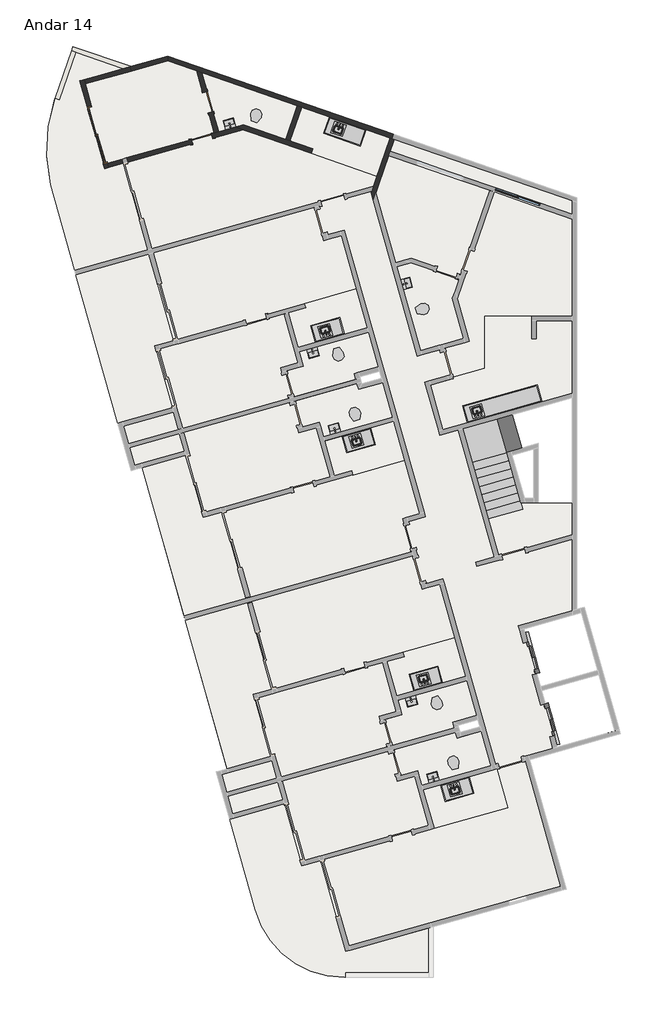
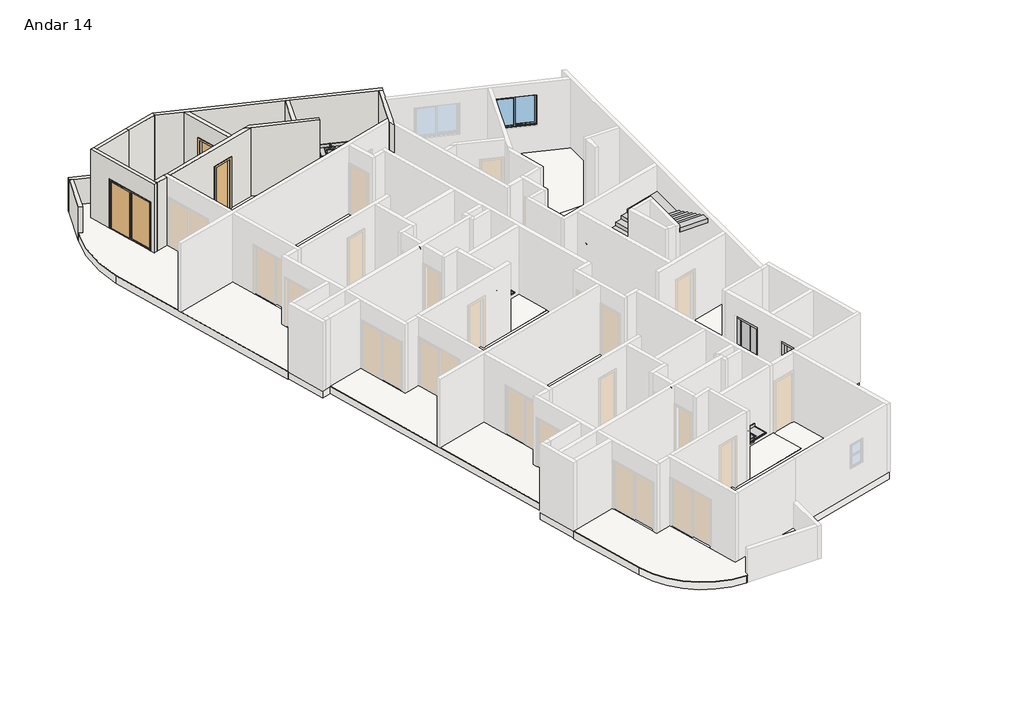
# One storey, part 3 of 3: 18 flow terminals, 18 slabs, 12 walls, 8 proxies, 3 doors, 1 stair flight, 1 window.
"""IFC4 building model written with IfcOpenShell, lengths in millimetres."""

from ifc_helpers import new_model, si_unit, point, frame, frame_2d, origin, place, context, project, spatial, polyline, circle_curve, trimmed, segment, composite_curve, outline, extrude, faceted_brep, transform, mapped, element, save
from components import specialty_equipment_6c35da8b, specialty_equipment_77dfa124, rf_bancada_cozinha_rf_bancada_cozinha_340fef9f, rf_bancada_cozinha_rf_bancada_cozinha_cfb88ba1, rf_bancada_cozinha_rf_bancada_cozinha_2f873929, rf_bancada_cozinha_rf_bancada_cozinha_798ceddf, p3_70cm_ef4d15e3, p3_70cm_0a698c7c, p4_correr_200cm_eaaa0877, flow_terminal_cab7bae2, flow_terminal_3fb7dc42, flow_terminal_e42b9071, flow_terminal_c6e042c4, ap_01_creme_cr37_13e02e03, ap_01_creme_cr37_5ce6e54d, jx_160cm_e9e36a0c

model = new_model("IFC4")

# Units and contexts
model_context = context("Model", 3, world=origin())
ifc_project = project(units=[si_unit("LENGTHUNIT", "METRE", prefix="MILLI")], contexts=[model_context])

# Site, building, storey
site = spatial("IfcSite", under=ifc_project)
building = spatial("IfcBuilding", under=site)
storey = spatial("IfcBuildingStorey", under=building, Name="Andar 14", Elevation=91350.0)

# Proxies
placement = place(None, origin())
specialty_equipment_shape = specialty_equipment_6c35da8b(model_context)
element("IfcBuildingElementProxy", 1, Name="Porta do elevador : Porta do elevador", ObjectType="Porta do elevador : Porta do elevador", at=placement, inside=storey, context=model_context, shape_type="MappedRepresentation", body=[
    mapped(specialty_equipment_shape, transform((-76594.4337486, 15747.4543727, 91350.0), x_axis=(0.27176796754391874, -0.9623628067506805, 0.0), y_axis=(0.9623628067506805, 0.27176796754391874, 0.0), z_axis=(0.0, 0.0, 1.0))),
])
specialty_equipment_2_shape = specialty_equipment_77dfa124(model_context)
element("IfcBuildingElementProxy", 2, Name="Porta do elevador : Porta do elevador", ObjectType="Porta do elevador : Porta do elevador", at=placement, inside=storey, context=model_context, shape_type="MappedRepresentation", body=[
    mapped(specialty_equipment_2_shape, transform((-75942.1906265, 13437.7836365, 91350.0), x_axis=(-0.27176796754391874, 0.9623628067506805, 0.0), y_axis=(-0.9623628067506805, -0.27176796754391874, 0.0), z_axis=(0.0, 0.0, 1.0))),
])
rf_bancada_cozinha_rf_bancada_cozinha_shape = rf_bancada_cozinha_rf_bancada_cozinha_340fef9f(model_context)
element("IfcBuildingElementProxy", 3, Name="RF_Bancada Cozinha : RF_Bancada Cozinha", ObjectType="RF_Bancada Cozinha : RF_Bancada Cozinha", at=placement, inside=storey, context=model_context, shape_type="MappedRepresentation", body=[
    mapped(rf_bancada_cozinha_rf_bancada_cozinha_shape, transform((-82760.548019, 26451.5820971, 92100.0), x_axis=(-0.9623628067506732, -0.27176796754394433, 0.0), y_axis=(0.27176796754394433, -0.9623628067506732, 0.0), z_axis=(0.0, 0.0, 1.0))),
])
element("IfcBuildingElementProxy", 4, Name="RF_Bancada Cozinha : RF_Bancada Cozinha", ObjectType="RF_Bancada Cozinha : RF_Bancada Cozinha", at=placement, inside=storey, context=model_context, shape_type="MappedRepresentation", body=[
    mapped(rf_bancada_cozinha_rf_bancada_cozinha_shape, transform((-79472.1556117, 14806.9921354, 92100.0), x_axis=(-0.9623628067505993, -0.2717679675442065, 0.0), y_axis=(0.2717679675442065, -0.9623628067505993, 0.0), z_axis=(0.0, 0.0, 1.0))),
])
rf_bancada_cozinha_rf_bancada_cozinha_2_shape = rf_bancada_cozinha_rf_bancada_cozinha_cfb88ba1(model_context)
element("IfcBuildingElementProxy", 5, Name="RF_Bancada Cozinha : RF_Bancada Cozinha", ObjectType="RF_Bancada Cozinha : RF_Bancada Cozinha", at=placement, inside=storey, context=model_context, shape_type="MappedRepresentation", body=[
    mapped(rf_bancada_cozinha_rf_bancada_cozinha_2_shape, transform((-81877.3021245, 23323.9029751, 92100.0), x_axis=(-0.9623628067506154, -0.27176796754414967, 0.0), y_axis=(0.27176796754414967, -0.9623628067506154, 0.0), z_axis=(0.0, 0.0, 1.0))),
])
element("IfcBuildingElementProxy", 6, Name="RF_Bancada Cozinha : RF_Bancada Cozinha", ObjectType="RF_Bancada Cozinha : RF_Bancada Cozinha", at=placement, inside=storey, context=model_context, shape_type="MappedRepresentation", body=[
    mapped(rf_bancada_cozinha_rf_bancada_cozinha_2_shape, transform((-78588.9097172, 11679.3130134, 92100.0), x_axis=(-0.9623628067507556, -0.27176796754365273, 0.0), y_axis=(0.27176796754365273, -0.9623628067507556, 0.0), z_axis=(0.0, 0.0, 1.0))),
])
rf_bancada_cozinha_rf_bancada_cozinha_3_shape = rf_bancada_cozinha_rf_bancada_cozinha_2f873929(model_context)
element("IfcBuildingElementProxy", 7, Name="RF_Bancada Cozinha : RF_Bancada Cozinha", ObjectType="RF_Bancada Cozinha : RF_Bancada Cozinha", at=placement, inside=storey, context=model_context, shape_type="MappedRepresentation", body=[
    mapped(rf_bancada_cozinha_rf_bancada_cozinha_3_shape, transform((-82030.0326121, 33293.9830661, 92100.0), x_axis=(-0.9449109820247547, 0.32732741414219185, 0.0), y_axis=(-0.32732741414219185, -0.9449109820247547, 0.0), z_axis=(0.0, 0.0, 1.0))),
])
rf_bancada_cozinha_rf_bancada_cozinha_4_shape = rf_bancada_cozinha_rf_bancada_cozinha_798ceddf(model_context)
element("IfcBuildingElementProxy", 8, Name="RF_Bancada Cozinha : RF_Bancada Cozinha", ObjectType="RF_Bancada Cozinha : RF_Bancada Cozinha", at=placement, inside=storey, context=model_context, shape_type="MappedRepresentation", body=[
    mapped(rf_bancada_cozinha_rf_bancada_cozinha_4_shape, transform((-76157.6622331, 24197.9763092, 92100.0), x_axis=(-0.9623628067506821, -0.27176796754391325, 0.0), y_axis=(0.27176796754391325, -0.9623628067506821, 0.0), z_axis=(0.0, 0.0, 1.0))),
])

# Doors
p3_70cm_shape = p3_70cm_ef4d15e3(model_context)
element("IfcDoor", 9, ObjectType="M_Folha única1 : P3 - 70CM", at=placement, inside=storey, context=model_context, shape_type="MappedRepresentation", body=[
    mapped(p3_70cm_shape, transform((-87513.806232, 32980.5300491, 91350.0), x_axis=(0.9623628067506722, 0.2717679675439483, 0.0), y_axis=(-0.2717679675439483, 0.9623628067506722, 0.0), z_axis=(0.0, 0.0, 1.0))),
])
p3_70cm_2_shape = p3_70cm_0a698c7c(model_context)
element("IfcDoor", 10, ObjectType="M_Folha única1 : P3 - 70CM", at=placement, inside=storey, context=model_context, shape_type="MappedRepresentation", body=[
    mapped(p3_70cm_2_shape, transform((-87314.304722, 34205.8663896, 91350.0), x_axis=(-0.2717679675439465, 0.9623628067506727, 0.0), y_axis=(-0.9623628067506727, -0.2717679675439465, 0.0), z_axis=(0.0, 0.0, 1.0))),
])
p4_correr_200cm_shape = p4_correr_200cm_eaaa0877(model_context)
element("IfcDoor", 11, ObjectType="Porta de correr dupla envidraçada sem revestimento : P4 - CORRER - 200CM", at=placement, inside=storey, context=model_context, shape_type="MappedRepresentation", body=[
    mapped(p4_correr_200cm_shape, transform((-91005.8131296, 33111.4415743, 91350.0), x_axis=(0.2717679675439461, -0.9623628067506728, 0.0), y_axis=(0.9623628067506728, 0.2717679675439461, 0.0), z_axis=(0.0, 0.0, 1.0))),
])

# Flow terminals
flow_terminal_shape = flow_terminal_cab7bae2(model_context)
element("IfcFlowTerminal", 12, ObjectType="RF_Pias : Pia da Bancada", at=placement, inside=storey, context=model_context, shape_type="MappedRepresentation", body=[
    mapped(flow_terminal_shape, transform((-83380.5102831, 26570.4992214, 91202.9), x_axis=(-0.9623628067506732, -0.27176796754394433, 0.0), y_axis=(0.27176796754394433, -0.9623628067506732, 0.0), z_axis=(0.0, 0.0, 1.0))),
])
element("IfcFlowTerminal", 13, ObjectType="RF_Pias : Pia da Bancada", at=placement, inside=storey, context=model_context, shape_type="MappedRepresentation", body=[
    mapped(flow_terminal_shape, transform((-80092.1178758, 14925.9092597, 91202.9), x_axis=(-0.9623628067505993, -0.2717679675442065, 0.0), y_axis=(0.2717679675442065, -0.9623628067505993, 0.0), z_axis=(0.0, 0.0, 1.0))),
])
element("IfcFlowTerminal", 14, ObjectType="RF_Pias : Pia da Bancada", at=placement, inside=storey, context=model_context, shape_type="MappedRepresentation", body=[
    mapped(flow_terminal_shape, transform((-78306.8185143, 23885.0542694, 91202.9), x_axis=(-0.9623628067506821, -0.27176796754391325, 0.0), y_axis=(0.27176796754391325, -0.9623628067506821, 0.0), z_axis=(0.0, 0.0, 1.0))),
])
flow_terminal_2_shape = flow_terminal_3fb7dc42(model_context)
element("IfcFlowTerminal", 15, ObjectType="Deca_Cuba de Apoio Retangular_L7300 : L.7300.17_Branco Gelo GE17", at=placement, inside=storey, context=model_context, shape_type="MappedRepresentation", body=[
    mapped(flow_terminal_2_shape, transform((-83090.0822283, 23308.7374016, 92100.0), x_axis=(-0.9623628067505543, -0.2717679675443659, 0.0), y_axis=(0.2717679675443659, -0.9623628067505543, 0.0), z_axis=(0.0, 0.0, 1.0))),
])
element("IfcFlowTerminal", 16, ObjectType="Deca_Cuba de Apoio Retangular_L7300 : L.7300.17_Branco Gelo GE17", at=placement, inside=storey, context=model_context, shape_type="MappedRepresentation", body=[
    mapped(flow_terminal_2_shape, transform((-79801.689821, 11664.1474399, 92100.0), x_axis=(-0.9623628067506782, -0.2717679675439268, 0.0), y_axis=(0.2717679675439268, -0.9623628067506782, 0.0), z_axis=(0.0, 0.0, 1.0))),
])
element("IfcFlowTerminal", 17, ObjectType="Deca_Cuba de Apoio Retangular_L7300 : L.7300.17_Branco Gelo GE17", at=placement, inside=storey, context=model_context, shape_type="MappedRepresentation", body=[
    mapped(flow_terminal_2_shape, transform((-80677.0991462, 28154.8020678, 92100.0), x_axis=(-0.2717679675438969, 0.9623628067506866, 0.0), y_axis=(-0.9623628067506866, -0.2717679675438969, 0.0), z_axis=(0.0, 0.0, 1.0))),
])
element("IfcFlowTerminal", 18, ObjectType="Deca_Cuba de Apoio Retangular_L7300 : L.7300.17_Branco Gelo GE17", at=placement, inside=storey, context=model_context, shape_type="MappedRepresentation", body=[
    mapped(flow_terminal_2_shape, transform((-86597.4204814, 33488.7004496, 92100.0), x_axis=(-0.9623628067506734, -0.27176796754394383, 0.0), y_axis=(0.27176796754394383, -0.9623628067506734, 0.0), z_axis=(0.0, 0.0, 1.0))),
])
flow_terminal_3_shape = flow_terminal_e42b9071(model_context)
element("IfcFlowTerminal", 19, ObjectType="Deca_Cuba de Apoio Retangular_L7300 : L.7300.17_Branco Gelo GE17", at=placement, inside=storey, context=model_context, shape_type="MappedRepresentation", body=[
    mapped(flow_terminal_3_shape, transform((-83802.1143033, 25830.1279553, 92100.0), x_axis=(-0.9623628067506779, -0.2717679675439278, 0.0), y_axis=(0.2717679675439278, -0.9623628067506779, 0.0), z_axis=(0.0, 0.0, 1.0))),
])
element("IfcFlowTerminal", 20, ObjectType="Deca_Cuba de Apoio Retangular_L7300 : L.7300.17_Branco Gelo GE17", at=placement, inside=storey, context=model_context, shape_type="MappedRepresentation", body=[
    mapped(flow_terminal_3_shape, transform((-80513.721896, 14185.5379936, 92100.0), x_axis=(-0.962362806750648, -0.27176796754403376, 0.0), y_axis=(0.27176796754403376, -0.962362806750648, 0.0), z_axis=(0.0, 0.0, 1.0))),
])
flow_terminal_4_shape = flow_terminal_c6e042c4(model_context)
element("IfcFlowTerminal", 21, ObjectType="RF_Pias : Pia da Bancada", at=placement, inside=storey, context=model_context, shape_type="MappedRepresentation", body=[
    mapped(flow_terminal_4_shape, transform((-82343.483233, 22898.2626745, 91202.9), x_axis=(-0.9623628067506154, -0.27176796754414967, 0.0), y_axis=(0.27176796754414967, -0.9623628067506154, 0.0), z_axis=(0.0, 0.0, 1.0))),
])
element("IfcFlowTerminal", 22, ObjectType="RF_Pias : Pia da Bancada", at=placement, inside=storey, context=model_context, shape_type="MappedRepresentation", body=[
    mapped(flow_terminal_4_shape, transform((-79055.0908257, 11253.6727129, 91202.9), x_axis=(-0.9623628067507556, -0.27176796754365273, 0.0), y_axis=(0.27176796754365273, -0.9623628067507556, 0.0), z_axis=(0.0, 0.0, 1.0))),
])
element("IfcFlowTerminal", 23, ObjectType="RF_Pias : Pia da Bancada", at=placement, inside=storey, context=model_context, shape_type="MappedRepresentation", body=[
    mapped(flow_terminal_4_shape, transform((-82939.3392028, 33309.5545572, 91202.9), x_axis=(-0.9449109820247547, 0.32732741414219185, 0.0), y_axis=(-0.32732741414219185, -0.9449109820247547, 0.0), z_axis=(0.0, 0.0, 1.0))),
])
ap_01_creme_cr37_shape = ap_01_creme_cr37_13e02e03(model_context)
element("IfcFlowTerminal", 24, ObjectType="Deca_Shared_Assento_P.900 : AP.01_Creme CR37", at=placement, inside=storey, context=model_context, shape_type="MappedRepresentation", body=[
    mapped(ap_01_creme_cr37_shape, transform((-83017.5301151, 25983.4740486, 91737.8723674), x_axis=(0.9623628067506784, 0.2717679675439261, 0.0), y_axis=(0.0, 0.0, 1.0), z_axis=(0.2717679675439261, -0.9623628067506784, 0.0))),
])
element("IfcFlowTerminal", 25, ObjectType="Deca_Shared_Assento_P.900 : AP.01_Creme CR37", at=placement, inside=storey, context=model_context, shape_type="MappedRepresentation", body=[
    mapped(ap_01_creme_cr37_shape, transform((-79729.1377078, 14338.8840869, 91737.8723674), x_axis=(0.962362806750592, 0.2717679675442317, 0.0), y_axis=(0.0, 0.0, 1.0), z_axis=(0.2717679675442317, -0.962362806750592, 0.0))),
])
element("IfcFlowTerminal", 26, ObjectType="Deca_Shared_Assento_P.900 : AP.01_Creme CR37", at=placement, inside=storey, context=model_context, shape_type="MappedRepresentation", body=[
    mapped(ap_01_creme_cr37_shape, transform((-80349.5164684, 27236.3600819, 91737.8723674), x_axis=(-0.271767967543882, 0.9623628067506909, 0.0), y_axis=(0.0, 0.0, 1.0), z_axis=(0.9623628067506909, 0.271767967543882, 0.0))),
])
element("IfcFlowTerminal", 27, ObjectType="Deca_Shared_Assento_P.900 : AP.01_Creme CR37", at=placement, inside=storey, context=model_context, shape_type="MappedRepresentation", body=[
    mapped(ap_01_creme_cr37_shape, transform((-85777.8760768, 33566.4131555, 91737.8723674), x_axis=(-0.9449109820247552, 0.3273274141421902, 0.0), y_axis=(0.0, 0.0, 1.0000000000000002), z_axis=(0.3273274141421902, 0.9449109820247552, 0.0))),
])
ap_01_creme_cr37_2_shape = ap_01_creme_cr37_5ce6e54d(model_context)
element("IfcFlowTerminal", 28, ObjectType="Deca_Shared_Assento_P.900 : AP.01_Creme CR37", at=placement, inside=storey, context=model_context, shape_type="MappedRepresentation", body=[
    mapped(ap_01_creme_cr37_2_shape, transform((-82341.1813229, 23588.4422577, 91737.8723674), x_axis=(0.9623628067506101, 0.27176796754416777, 0.0), y_axis=(0.0, 0.0, -1.0), z_axis=(-0.27176796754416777, 0.9623628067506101, 0.0))),
])
element("IfcFlowTerminal", 29, ObjectType="Deca_Shared_Assento_P.900 : AP.01_Creme CR37", at=placement, inside=storey, context=model_context, shape_type="MappedRepresentation", body=[
    mapped(ap_01_creme_cr37_2_shape, transform((-79052.7889156, 11943.852296, 91737.8723674), x_axis=(0.9623628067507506, 0.2717679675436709, 0.0), y_axis=(0.0, 0.0, -1.0000000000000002), z_axis=(-0.2717679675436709, 0.9623628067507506, 0.0))),
])

# Slabs
element("IfcSlab", 30, ObjectType="TZ_Piso de Áreas Molhadas", at=placement, inside=storey, context=model_context, shape_type="SweptSolid", body=[
    extrude(outline(composite_curve([segment(polyline([(-90765.4571774, 31984.341749), (-90143.7425806, 32159.9118263), (-89328.438678, 29272.823406), (-91766.0080564, 28584.4621444), (-92573.2320087, 31442.9384962)]), True, "CONTINUOUS"), segment(trimmed(circle_curve(frame_2d((-87414.5556743, 32622.5665107)), 5291.829908), [point((-92573.2320087, 31442.9384962))], [point((-92422.0860726, 34333.7366032))], False, "CARTESIAN"), True, "CONTINUOUS"), segment(polyline([(-92422.0860726, 34333.7366032), (-92280.2794148, 34284.6132387), (-91729.7010481, 35873.9929322), (-90151.0501028, 35327.1311202), (-91594.3494784, 34919.5483093), (-90765.4571774, 31984.341749)]), True, "CONTINUOUS")], self_intersect=False)), frame((0.0, 0.0, 91350.0), z_axis=(0.0, 0.0, 1.0), x_axis=(1.0, 0.0, 0.0)), (0.0, 0.0, 1.0), 20.0),
])
element("IfcSlab", 31, ObjectType="TZ_Piso de Áreas Molhadas", at=placement, inside=storey, context=model_context, shape_type="SweptSolid", body=[
    extrude(outline(polyline([(-88472.3695802, 26241.3805647), (-89094.084177, 26065.8104874), (-88509.7830468, 23996.7304529), (-90325.6378284, 23483.9392686), (-91725.2428613, 28440.1077234), (-89287.6734828, 29128.468985), (-88472.3695802, 26241.3805647)])), frame((0.0, 0.0, 91350.0), z_axis=(0.0, 0.0, 1.0), x_axis=(1.0, 0.0, 0.0)), (0.0, 0.0, 1.0), 20.0),
])
element("IfcSlab", 32, ObjectType="TZ_Piso de Áreas Molhadas", at=placement, inside=storey, context=model_context, shape_type="SweptSolid", body=[
    extrude(outline(polyline([(-86855.3501733, 20515.3218645), (-86040.0462707, 17628.2334443), (-88109.1263052, 17043.9323141), (-89508.731338, 22000.1007688), (-88061.3659003, 22408.8318218), (-87477.0647701, 20339.7517872), (-86855.3501733, 20515.3218645)])), frame((0.0, 0.0, 91350.0), z_axis=(0.0, 0.0, 1.0), x_axis=(1.0, 0.0, 0.0)), (0.0, 0.0, 1.0), 20.0),
])
element("IfcSlab", 33, ObjectType="TZ_Piso de Áreas Molhadas", at=placement, inside=storey, context=model_context, shape_type="SweptSolid", body=[
    extrude(outline(polyline([(-78926.5637691, 28284.9851582), (-79146.9727346, 27648.7205404), (-78771.1333302, 26317.8283554), (-80214.6775403, 25910.176404), (-81004.3851492, 28706.6252933), (-80530.2499593, 28840.5194505), (-78926.5637691, 28284.9851582)])), frame((0.0, 0.0, 91350.0), z_axis=(0.0, 0.0, 1.0), x_axis=(1.0, 0.0, 0.0)), (0.0, 0.0, 1.0), 20.0),
])
element("IfcSlab", 34, ObjectType="TZ_Piso de Áreas Molhadas", at=placement, inside=storey, context=model_context, shape_type="SweptSolid", body=[
    extrude(outline(polyline([(-78070.9150345, 27060.8243598), (-76493.6479314, 27060.8243598), (-76493.6479314, 26310.8243598), (-76343.6479314, 26310.8243598), (-76343.6479314, 26910.8243598), (-75147.8282189, 26910.8243598), (-75147.8282189, 24483.4871675), (-79467.3156296, 23263.6786855), (-79888.5559793, 24755.3410359), (-79127.7601479, 24970.1871785), (-79141.3485461, 25018.3053183), (-78070.9150345, 25320.5920836), (-78070.9150345, 27060.8243598)])), frame((0.0, 0.0, 91350.0), z_axis=(0.0, 0.0, 1.0), x_axis=(1.0, 0.0, 0.0)), (0.0, 0.0, 1.0), 20.0),
])
element("IfcSlab", 35, ObjectType="TZ_Piso de Áreas Molhadas", at=placement, inside=storey, context=model_context, shape_type="SweptSolid", body=[
    extrude(outline(polyline([(-84719.4810559, 32955.6762822), (-86137.8721095, 33447.0223292), (-86956.7711455, 33215.7680402), (-87515.4733556, 35194.1992432), (-84326.6881589, 34089.5694606), (-84719.4810559, 32955.6762822)])), frame((0.0, 0.0, 91350.0), z_axis=(0.0, 0.0, 1.0), x_axis=(1.0, 0.0, 0.0)), (0.0, 0.0, 1.0), 20.0),
])
element("IfcSlab", 36, ObjectType="TZ_Piso de Áreas Molhadas", at=placement, inside=storey, context=model_context, shape_type="SweptSolid", body=[
    extrude(outline(polyline([(-84577.7444086, 32906.57717), (-84184.9515116, 34040.4703485), (-81226.8582774, 33015.7547641), (-81668.7502865, 31740.1249383), (-83870.9147351, 32502.9785914), (-83821.815623, 32644.7152387), (-84577.7444086, 32906.57717)])), frame((0.0, 0.0, 91350.0), z_axis=(0.0, 0.0, 1.0), x_axis=(1.0, 0.0, 0.0)), (0.0, 0.0, 1.0), 20.0),
])
element("IfcSlab", 37, ObjectType="TZ_Piso de Áreas Molhadas", at=placement, inside=storey, context=model_context, shape_type="SweptSolid", body=[
    extrude(outline(polyline([(-81949.8925784, 26524.6420501), (-81623.7710174, 25369.806682), (-82432.1557751, 25141.5215893), (-82377.8021816, 24949.0490279), (-84456.5058441, 24362.030218), (-84701.0970149, 25228.1567441), (-84123.6793309, 25391.2175246), (-84259.5633146, 25872.398928), (-81949.8925784, 26524.6420501)])), frame((0.0, 0.0, 91350.0), z_axis=(0.0, 0.0, 1.0), x_axis=(1.0, 0.0, 0.0)), (0.0, 0.0, 1.0), 20.0),
])
element("IfcSlab", 38, ObjectType="TZ_Piso de Áreas Molhadas", at=placement, inside=storey, context=model_context, shape_type="SweptSolid", body=[
    extrude(outline(polyline([(-84089.7975819, 27479.0039186), (-82357.5445298, 27968.1862602), (-81990.6577736, 26668.9964711), (-84300.3285098, 26016.753349), (-84626.4500708, 27171.5887171), (-84049.0323868, 27334.6494976), (-84089.7975819, 27479.0039186)])), frame((0.0, 0.0, 91350.0), z_axis=(0.0, 0.0, 1.0), x_axis=(1.0, 0.0, 0.0)), (0.0, 0.0, 1.0), 20.0),
])
element("IfcSlab", 39, ObjectType="TZ_Piso de Áreas Molhadas", at=placement, inside=storey, context=model_context, shape_type="SweptSolid", body=[
    extrude(outline(polyline([(-84171.1494782, 23351.5492709), (-84415.740649, 24217.675797), (-82337.0369864, 24804.6946069), (-82282.6833929, 24612.2220455), (-81474.2986352, 24840.5071383), (-81148.1770742, 23685.6717702), (-83457.8478104, 23033.4286481), (-83593.7317942, 23514.6100514), (-84171.1494782, 23351.5492709)])), frame((0.0, 0.0, 91350.0), z_axis=(0.0, 0.0, 1.0), x_axis=(1.0, 0.0, 0.0)), (0.0, 0.0, 1.0), 20.0),
])
element("IfcSlab", 40, ObjectType="TZ_Piso de Áreas Molhadas", at=placement, inside=storey, context=model_context, shape_type="SweptSolid", body=[
    extrude(outline(composite_curve([segment(polyline([(-79945.4990038, 5119.4122055), (-82713.5540687, 5119.4122055), (-82713.5540687, 4969.4122055), (-82751.3896972, 4969.4122055)]), True, "CONTINUOUS"), segment(trimmed(circle_curve(frame_2d((-82751.3896972, 8069.4122055)), 3100.0), [point((-82751.3896972, 4969.4122055))], [point((-85734.7143981, 7226.9315061))], False, "CARTESIAN"), True, "CONTINUOUS"), segment(polyline([(-85734.7143981, 7226.9315061), (-86588.8282733, 10251.4506708), (-84772.9735093, 10764.2419177), (-84188.6722855, 8695.1618243), (-83566.957766, 8870.7319029), (-82710.8885369, 5839.2889958), (-79945.4990038, 6620.2256515), (-79945.4990038, 5119.4122055)]), True, "CONTINUOUS")], self_intersect=False)), frame((0.0, 0.0, 91350.0), z_axis=(0.0, 0.0, 1.0), x_axis=(1.0, 0.0, 0.0)), (0.0, 0.0, 1.0), 20.0),
])
element("IfcSlab", 41, ObjectType="TZ_Piso de Áreas Molhadas", at=placement, inside=storey, context=model_context, shape_type="SweptSolid", body=[
    extrude(outline(polyline([(-78185.906228, 13195.9171766), (-77859.7846669, 12041.0818085), (-80169.4554031, 11388.8386864), (-80305.3393869, 11870.0200898), (-80882.7570709, 11706.9593092), (-81127.3482417, 12573.0858353), (-79048.6445791, 13160.1046452), (-78994.2909856, 12967.6320839), (-78185.906228, 13195.9171766)])), frame((0.0, 0.0, 91350.0), z_axis=(0.0, 0.0, 1.0), x_axis=(1.0, 0.0, 0.0)), (0.0, 0.0, 1.0), 20.0),
])
element("IfcSlab", 42, ObjectType="TZ_Piso de Áreas Molhadas", at=placement, inside=storey, context=model_context, shape_type="SweptSolid", body=[
    extrude(outline(polyline([(-77307.7782946, 10638.3027935), (-79761.8034518, 9945.2944763), (-80128.690208, 11244.4842654), (-77674.6650508, 11937.4925826), (-77307.7782946, 10638.3027935)])), frame((0.0, 0.0, 91350.0), z_axis=(0.0, 0.0, 1.0), x_axis=(1.0, 0.0, 0.0)), (0.0, 0.0, 1.0), 20.0),
])
element("IfcSlab", 43, ObjectType="TZ_Piso de Áreas Molhadas", at=placement, inside=storey, context=model_context, shape_type="SweptSolid", body=[
    extrude(outline(polyline([(-81107.9410005, 23543.1910314), (-80740.5251229, 22242.1275601), (-82472.778175, 21752.9452185), (-82513.5433702, 21897.2996395), (-83090.9610542, 21734.238859), (-83418.0192411, 22888.8089065), (-81107.9410005, 23543.1910314)])), frame((0.0, 0.0, 91350.0), z_axis=(0.0, 0.0, 1.0), x_axis=(1.0, 0.0, 0.0)), (0.0, 0.0, 1.0), 20.0),
])
element("IfcSlab", 44, ObjectType="TZ_Piso de Áreas Molhadas", at=placement, inside=storey, context=model_context, shape_type="SweptSolid", body=[
    extrude(outline(polyline([(-85183.9771729, 14596.790603), (-85805.6917697, 14421.2205257), (-85221.3906395, 12352.1404912), (-86668.7560772, 11943.4094383), (-88068.36111, 16899.5778931), (-85999.2810755, 17483.8790233), (-85183.9771729, 14596.790603)])), frame((0.0, 0.0, 91350.0), z_axis=(0.0, 0.0, 1.0), x_axis=(1.0, 0.0, 0.0)), (0.0, 0.0, 1.0), 20.0),
])
element("IfcSlab", 45, ObjectType="TZ_Piso de Áreas Molhadas", at=placement, inside=storey, context=model_context, shape_type="SweptSolid", body=[
    extrude(outline(polyline([(-81412.7046076, 13583.5667824), (-80835.2869236, 13746.6275629), (-80971.1709074, 14227.8089663), (-78661.5001712, 14880.0520884), (-78335.3786101, 13725.2167203), (-79143.7633678, 13496.9316276), (-79089.4097743, 13304.4590662), (-81168.1134368, 12717.4402563), (-81412.7046076, 13583.5667824)])), frame((0.0, 0.0, 91350.0), z_axis=(0.0, 0.0, 1.0), x_axis=(1.0, 0.0, 0.0)), (0.0, 0.0, 1.0), 20.0),
])
element("IfcSlab", 46, ObjectType="TZ_Piso de Áreas Molhadas", at=placement, inside=storey, context=model_context, shape_type="SweptSolid", body=[
    extrude(outline(polyline([(-78701.7362448, 15022.5328272), (-81012.8731576, 14371.8995868), (-81338.0576635, 15526.9987554), (-80760.6399795, 15690.059536), (-80801.4051746, 15834.413957), (-79069.1521225, 16323.5962985), (-78701.7362448, 15022.5328272)])), frame((0.0, 0.0, 91350.0), z_axis=(0.0, 0.0, 1.0), x_axis=(1.0, 0.0, 0.0)), (0.0, 0.0, 1.0), 20.0),
])
element("IfcSlab", 47, ObjectType="TZ_Laje 30cm", at=placement, inside=storey, context=model_context, shape_type="SweptSolid", body=[
    extrude(outline(composite_curve([segment(polyline([(-82713.5540687, 4969.4122055), (-82751.3896972, 4969.4122055)]), True, "CONTINUOUS"), segment(trimmed(circle_curve(frame_2d((-82751.3896972, 8069.4122055)), 3100.0), [point((-82751.3896972, 4969.4122055))], [point((-85734.7143981, 7226.9315061))], False, "CARTESIAN"), True, "CONTINUOUS"), segment(polyline([(-85734.7143981, 7226.9315061), (-86588.8282747, 10251.4506758), (-86574.3928326, 10255.5271953), (-87018.7334595, 11828.9903844), (-86664.6795577, 11928.9739962), (-89512.8078575, 22014.5362109), (-89866.8617594, 21914.5525991), (-90311.2023863, 23488.0157882), (-90325.6378284, 23483.9392686), (-92573.2320087, 31442.9384962)]), True, "CONTINUOUS"), segment(trimmed(circle_curve(frame_2d((-87414.5556743, 32622.5665107)), 5291.829908), [point((-92573.2320087, 31442.9384962))], [point((-92426.4466323, 34320.9224218))], False, "CARTESIAN"), True, "CONTINUOUS"), segment(polyline([(-92426.4466323, 34320.9224218), (-92422.0160621, 34333.7123509), (-92403.1178425, 34327.1658026), (-91809.986912, 36039.3839237), (-89899.2062586, 35377.468778), (-88658.6666899, 35727.7929124), (-75017.8282189, 31002.4584964), (-75017.8282189, 17238.3098681), (-74750.7083414, 17313.7436086), (-73565.8000029, 13117.8417711), (-76592.4310301, 12263.1315132), (-75369.6745845, 7933.2050117), (-79815.4990038, 6677.7193903), (-79815.4990038, 4989.4122055), (-82713.5540687, 4989.4122055), (-82713.5540687, 4969.4122055)]), True, "CONTINUOUS")], self_intersect=False), holes=[polyline([(-81583.0058223, 25225.452261), (-82247.0361589, 25037.9323634), (-82179.094167, 24797.3416617), (-81515.0638304, 24984.8615593), (-81583.0058223, 25225.452261)]), polyline([(-78294.613415, 13580.8622993), (-78958.6437516, 13393.3424017), (-78890.7017597, 13152.7517), (-78226.6714231, 13340.2715976), (-78294.613415, 13580.8622993)]), polyline([(-74840.4856705, 17153.3066079), (-76760.3994699, 16611.1295126), (-76221.8794944, 14704.1660107), (-75646.150803, 12665.442005), (-73726.2370035, 13207.6191002), (-74270.7319215, 15135.7405865), (-74840.4856705, 17153.3066079)]), polyline([(-77952.9130698, 20291.1915783), (-76801.2963825, 20616.4041949), (-76858.5413412, 20819.1154254), (-75147.8282189, 20819.1154254), (-75147.8282189, 24343.0530162), (-78807.9060206, 23309.4595541), (-77952.9130698, 20291.1915783)])]), frame((0.0, 0.0, 91050.0), z_axis=(0.0, 0.0, 1.0), x_axis=(1.0, 0.0, 0.0)), (0.0, 0.0, 1.0), 300.0),
])

# Stair flight
element("IfcStairFlight", 48, ObjectType="Profundidade de 150mm", at=placement, inside=storey, context=model_context, shape_type="Brep", body=[
    faceted_brep([(-78029.0944782, 20560.1246789, 91488.0952381), (-77952.7808761, 20290.7249124, 91488.0952381), (-76802.2714069, 20616.6328483, 91488.0952381), (-76878.3664628, 20886.0945229, 91488.0952381), (-78029.0944782, 20560.1246789, 91350.0), (-77952.7808761, 20290.7249124, 91350.0), (-76802.2714069, 20616.6328483, 91350.0), (-76878.3664628, 20886.0945229, 91350.0), (-78105.4080802, 20829.5244453, 91626.1904762), (-78029.0944782, 20560.1246789, 91626.1904762), (-76878.3664628, 20886.0945229, 91626.1904762), (-76954.4615188, 21155.5561975, 91626.1904762), (-78105.4080802, 20829.5244453, 91458.939228), (-78045.2065482, 20617.0029783, 91350.0), (-76894.4323913, 20942.985893, 91350.0), (-76954.4615188, 21155.5561975, 91458.939228), (-78181.7216823, 21098.9242117, 91764.2857143), (-78105.4080802, 20829.5244453, 91764.2857143), (-76954.4615188, 21155.5561975, 91764.2857143), (-77030.5565747, 21425.017872, 91764.2857143), (-78181.7216823, 21098.9242117, 91597.0344661), (-77030.5565747, 21425.017872, 91597.0344661), (-78258.0352843, 21368.3239781, 91902.3809524), (-78181.7216823, 21098.9242117, 91902.3809524), (-77030.5565747, 21425.017872, 91902.3809524), (-77106.6516307, 21694.4795466, 91902.3809524), (-78258.0352843, 21368.3239781, 91735.1297042), (-77106.6516307, 21694.4795466, 91735.1297042), (-78334.3488864, 21637.7237445, 92040.4761905), (-78258.0352843, 21368.3239781, 92040.4761905), (-77106.6516307, 21694.4795466, 92040.4761905), (-77182.7466866, 21963.9412211, 92040.4761905), (-78334.3488864, 21637.7237445, 91873.2249423), (-77182.7466866, 21963.9412211, 91873.2249423), (-78410.6624885, 21907.1235109, 92178.5714286), (-78334.3488864, 21637.7237445, 92178.5714286), (-77182.7466866, 21963.9412211, 92178.5714286), (-77258.8417426, 22233.4028957, 92178.5714286), (-78410.6624885, 21907.1235109, 92011.3201804), (-77258.8417426, 22233.4028957, 92011.3201804), (-78486.9760905, 22176.5232773, 92316.6666667), (-78410.6624885, 21907.1235109, 92316.6666667), (-77258.8417426, 22233.4028957, 92316.6666667), (-77334.9367985, 22502.8645702, 92316.6666667), (-78486.9760905, 22176.5232773, 92149.4154185), (-77334.9367985, 22502.8645702, 92149.4154185), (-77650.6473278, 23620.8332322, 92454.7619048), (-78803.8582924, 23295.1703972, 92454.7619048), (-78572.8230038, 22479.5772253, 92454.7619048), (-78486.9760905, 22176.5232773, 92454.7619048), (-77334.9367985, 22502.8645702, 92454.7619048), (-77337.6544782, 22512.4881983, 92454.7619048), (-77650.6473278, 23620.8332322, 92304.7619048), (-78803.8582924, 23295.1703972, 92304.7619048), (-78572.8230038, 22479.5772253, 92304.7619048), (-77420.5378643, 22805.9881601, 92304.7619048), (-77337.6544782, 22512.4881983, 92304.7619048), (-77650.6473278, 23620.8332322, 92592.8571429), (-77337.6544782, 22512.4881983, 92592.8571429), (-77303.5536842, 22522.118146, 92592.8571429), (-77083.6709973, 22584.2122653, 92592.8571429), (-77396.6638468, 23692.5572992, 92592.8571429), (-77616.5465338, 23630.4631799, 92592.8571429), (-77396.6638468, 23692.5572992, 92419.0904432), (-77616.5465338, 23630.4631799, 92304.7619048), (-77303.5536842, 22522.118146, 92304.7619048), (-77083.6709973, 22584.2122653, 92419.0904432), (-77127.202261, 23768.6523301, 92730.952381), (-77396.6638468, 23692.5572992, 92730.952381), (-77083.6709973, 22584.2122653, 92730.952381), (-76814.2094114, 22660.3072962, 92730.952381), (-77127.202261, 23768.6523301, 92559.1976509), (-76814.2094114, 22660.3072962, 92559.1976509), (-76857.7406751, 23844.747361, 92869.047619), (-77127.202261, 23768.6523301, 92869.047619), (-76814.2094114, 22660.3072962, 92869.047619), (-76544.7478255, 22736.4023271, 92869.047619), (-76857.7406751, 23844.747361, 92699.3048586), (-76544.7478255, 22736.4023271, 92699.3048586), (-76588.2790892, 23920.842392, 93007.1428571), (-76857.7406751, 23844.747361, 93007.1428571), (-76544.7478255, 22736.4023271, 93007.1428571), (-76275.2862396, 22812.497358, 93007.1428571), (-76588.2790892, 23920.842392, 92839.4120663), (-75975.593386, 22897.1295956, 92995.2380952), (-76275.2862396, 22812.497358, 92995.2380952), (-75147.8282189, 22779.1154254, 93145.2380952), (-75147.8282189, 24327.6207947, 93145.2380952), (-76288.5862355, 24005.4746296, 93145.2380952), (-76588.2790892, 23920.842392, 93145.2380952), (-76275.2862396, 22812.497358, 93145.2380952), (-76275.2862396, 22779.1154254, 93145.2380952), (-75147.8282189, 22779.1154254, 92995.2380952), (-75147.8282189, 24327.6207947, 92995.2380952), (-76288.5862355, 24005.4746296, 92995.2380952), (-76275.2862396, 22779.1154254, 92995.2380952), (-75147.8282189, 22779.1154254, 93283.3333333), (-76275.2862396, 22779.1154254, 93283.3333333), (-76275.2862396, 22744.1370326, 93283.3333333), (-76275.2862396, 22499.1154254, 93283.3333333), (-75147.8282189, 22499.1154254, 93283.3333333), (-75147.8282189, 22744.1370326, 93283.3333333), (-75147.8282189, 22499.1154254, 93116.0820852), (-75147.8282189, 22744.1370326, 92995.2380952), (-76275.2862396, 22744.1370326, 92995.2380952), (-76275.2862396, 22499.1154254, 93116.0820852), (-75147.8282189, 22219.1154254, 93421.4285714), (-75147.8282189, 22499.1154254, 93421.4285714), (-76275.2862396, 22499.1154254, 93421.4285714), (-76275.2862396, 22219.1154254, 93421.4285714), (-75147.8282189, 22219.1154254, 93254.1773233), (-76275.2862396, 22219.1154254, 93254.1773233), (-75147.8282189, 21939.1154254, 93559.5238095), (-75147.8282189, 22219.1154254, 93559.5238095), (-76275.2862396, 22219.1154254, 93559.5238095), (-76275.2862396, 21939.1154254, 93559.5238095), (-75147.8282189, 21939.1154254, 93392.2725614), (-76275.2862396, 21939.1154254, 93392.2725614), (-75147.8282189, 21659.1154254, 93697.6190476), (-75147.8282189, 21939.1154254, 93697.6190476), (-76275.2862396, 21939.1154254, 93697.6190476), (-76275.2862396, 21659.1154254, 93697.6190476), (-75147.8282189, 21659.1154254, 93530.3677995), (-76275.2862396, 21659.1154254, 93530.3677995), (-75147.8282189, 21379.1154254, 93835.7142857), (-75147.8282189, 21659.1154254, 93835.7142857), (-76275.2862396, 21659.1154254, 93835.7142857), (-76275.2862396, 21379.1154254, 93835.7142857), (-75147.8282189, 21379.1154254, 93668.4630376), (-76275.2862396, 21379.1154254, 93668.4630376), (-75147.8282189, 21099.1154254, 93973.8095238), (-75147.8282189, 21379.1154254, 93973.8095238), (-76275.2862396, 21379.1154254, 93973.8095238), (-76275.2862396, 21099.1154254, 93973.8095238), (-75147.8282189, 21099.1154254, 93806.5582757), (-76275.2862396, 21099.1154254, 93806.5582757), (-75147.8282189, 20819.1154254, 94111.9047619), (-75147.8282189, 21099.1154254, 94111.9047619), (-76275.2862396, 21099.1154254, 94111.9047619), (-76275.2862396, 20819.1154254, 94111.9047619), (-75147.8282189, 20819.1154254, 93944.6535138), (-76275.2862396, 20819.1154254, 93944.6535138), (-76275.2862396, 23958.3777566, 92995.2380952)], [[[0, 1, 2, 3]], [[1, 0, 4, 5]], [[2, 1, 5, 6]], [[3, 2, 6, 7]], [[8, 9, 10, 11]], [[4, 0, 9, 8, 12, 13]], [[0, 3, 10, 9]], [[3, 7, 14, 15, 11, 10]], [[16, 17, 18, 19]], [[17, 16, 20, 12, 8]], [[8, 11, 18, 17]], [[19, 18, 11, 15, 21]], [[22, 23, 24, 25]], [[23, 22, 26, 20, 16]], [[16, 19, 24, 23]], [[25, 24, 19, 21, 27]], [[28, 29, 30, 31]], [[29, 28, 32, 26, 22]], [[22, 25, 30, 29]], [[31, 30, 25, 27, 33]], [[34, 35, 36, 37]], [[35, 34, 38, 32, 28]], [[28, 31, 36, 35]], [[37, 36, 31, 33, 39]], [[40, 41, 42, 43]], [[41, 40, 44, 38, 34]], [[34, 37, 42, 41]], [[43, 42, 37, 39, 45]], [[46, 47, 48, 49, 50, 51]], [[47, 46, 52, 53]], [[40, 49, 48, 47, 53, 54, 44]], [[40, 43, 50, 49]], [[51, 50, 43, 45, 55, 56]], [[57, 58, 59, 60, 61, 62]], [[46, 57, 62, 61, 63, 64, 52]], [[46, 51, 58, 57]], [[58, 51, 56, 65, 66, 60, 59]], [[67, 68, 69, 70]], [[68, 67, 71, 63, 61]], [[61, 60, 69, 68]], [[70, 69, 60, 66, 72]], [[73, 74, 75, 76]], [[74, 73, 77, 71, 67]], [[67, 70, 75, 74]], [[76, 75, 70, 72, 78]], [[79, 80, 81, 82]], [[80, 79, 83, 77, 73]], [[73, 76, 81, 80]], [[82, 81, 76, 78, 84, 85]], [[86, 87, 88, 89, 90, 91]], [[87, 86, 92, 93]], [[79, 89, 88, 87, 93, 94, 83]], [[79, 82, 90, 89]], [[91, 90, 82, 85, 95]], [[96, 97, 98, 99, 100, 101]], [[86, 96, 101, 100, 102, 103, 92]], [[86, 91, 97, 96]], [[97, 91, 95, 104, 105, 99, 98]], [[106, 107, 108, 109]], [[107, 106, 110, 102, 100]], [[100, 99, 108, 107]], [[109, 108, 99, 105, 111]], [[112, 113, 114, 115]], [[113, 112, 116, 110, 106]], [[106, 109, 114, 113]], [[115, 114, 109, 111, 117]], [[118, 119, 120, 121]], [[119, 118, 122, 116, 112]], [[112, 115, 120, 119]], [[121, 120, 115, 117, 123]], [[124, 125, 126, 127]], [[125, 124, 128, 122, 118]], [[118, 121, 126, 125]], [[127, 126, 121, 123, 129]], [[130, 131, 132, 133]], [[131, 130, 134, 128, 124]], [[124, 127, 132, 131]], [[133, 132, 127, 129, 135]], [[136, 137, 138, 139]], [[137, 136, 140, 134, 130]], [[130, 133, 138, 137]], [[139, 138, 133, 135, 141]], [[136, 139, 141, 140]], [[5, 4, 13, 14, 7, 6]], [[54, 55, 45, 39, 33, 27, 21, 15, 14, 13, 12, 20, 26, 32, 38, 44]], [[55, 54, 53, 52, 64, 65, 56]], [[65, 64, 63, 71, 77, 83, 94, 142, 84, 78, 72, 66]], [[142, 94, 93, 92, 103, 104, 95, 85, 84]], [[104, 103, 102, 110, 116, 122, 128, 134, 140, 141, 135, 129, 123, 117, 111, 105]]]),
])

# Walls
element("IfcWall", 49, ObjectType="Básica .15 - Externa", at=placement, inside=storey, context=model_context, shape_type="Brep", body=[
    faceted_brep([(-88662.6343714, 35591.588263, 91350.0), (-87688.240739, 35254.0477389, 91350.0), (-87515.4733556, 35194.1992432, 91350.0), (-84326.6881589, 34089.5694606, 91350.0), (-84184.9515116, 34040.4703485, 91350.0), (-81226.8582774, 33015.7547641, 91350.0), (-81156.3583355, 32991.3328194, 91350.0), (-81156.3583355, 32991.3328194, 92650.0), (-81085.1216301, 32966.655652, 92650.0), (-81085.1216301, 32966.655652, 94250.0), (-81226.8582774, 33015.7547641, 94250.0), (-84184.9515116, 34040.4703485, 94250.0), (-84326.6881589, 34089.5694606, 94250.0), (-87515.4733556, 35194.1992432, 94250.0), (-87688.240739, 35254.0477389, 94250.0), (-88662.6343714, 35591.588263, 94250.0), (-88658.0562773, 35748.7474739, 91350.0), (-88658.0562773, 35748.7474739, 94250.0), (-81036.022518, 33108.3922993, 94250.0), (-81036.022518, 33108.3922993, 92650.0), (-81107.2592234, 33133.0694667, 92650.0), (-81107.2592234, 33133.0694667, 91350.0)], [[[0, 1, 2, 3, 4, 5, 6, 7, 8, 9, 10, 11, 12, 13, 14, 15]], [[16, 17, 18, 19, 20, 21]], [[6, 5, 4, 3, 2, 1, 0, 16, 21]], [[15, 14, 13, 12, 11, 10, 9, 18, 17]], [[0, 15, 17, 16]], [[7, 6, 21, 20]], [[19, 8, 7, 20]], [[9, 8, 19, 18]]]),
])
element("IfcWall", 50, ObjectType="Básica .15 -  Interna", at=placement, inside=storey, context=model_context, shape_type="Brep", body=[
    faceted_brep([(-81789.2550074, 30934.0017027, 91350.0), (-81703.3880158, 31181.8778654, 91350.0), (-81272.8781344, 32424.6503839, 91350.0), (-81223.7790223, 32566.3870312, 91350.0), (-81085.1216301, 32966.655652, 91350.0), (-81085.1216301, 32966.655652, 92650.0), (-81085.1216301, 32966.655652, 94250.0), (-81223.7790223, 32566.3870312, 94250.0), (-81272.8781344, 32424.6503839, 94250.0), (-81703.3880158, 31181.8778654, 94250.0), (-81789.2550074, 30934.0017027, 94250.0), (-81860.5472267, 31186.4559595, 91350.0), (-81860.5472267, 31186.4559595, 94250.0), (-81845.4155775, 31230.1371819, 94250.0), (-81785.5670817, 31402.9045654, 94250.0), (-81226.8582774, 33015.7547641, 94250.0), (-81226.8582774, 33015.7547641, 91350.0), (-81785.5670817, 31402.9045654, 91350.0), (-81845.4155775, 31230.1371819, 91350.0), (-81156.3583355, 32991.3328194, 91350.0)], [[[0, 1, 2, 3, 4, 5, 6, 7, 8, 9, 10]], [[11, 12, 13, 14, 15, 16, 17, 18]], [[4, 3, 2, 1, 0, 11, 18, 17, 16, 19]], [[10, 9, 8, 7, 6, 15, 14, 13, 12]], [[0, 10, 12, 11]], [[4, 19, 16, 15, 6, 5]]]),
])
element("IfcWall", 51, ObjectType="Básica .15 -  Interna", at=placement, inside=storey, context=model_context, shape_type="Brep", body=[
    faceted_brep([(-91449.9950574, 34960.3135045, 94250.0), (-91409.2298622, 34815.9590835, 94250.0), (-90661.8679515, 32169.4613651, 94250.0), (-90621.1027564, 32025.1069441, 94250.0), (-90621.1027564, 32025.1069441, 91350.0), (-90661.8679515, 32169.4613651, 91350.0), (-90661.8679515, 32169.4613651, 93450.0), (-91205.4038866, 34094.1869786, 93450.0), (-91205.4038866, 34094.1869786, 91350.0), (-91409.2298622, 34815.9590835, 91350.0), (-91449.9950574, 34960.3135045, 91350.0), (-90765.4571774, 31984.341749, 94250.0), (-91594.3494784, 34919.5483093, 94250.0), (-91594.3494784, 34919.5483093, 91350.0), (-91349.7583076, 34053.4217835, 91350.0), (-91349.7583076, 34053.4217835, 93450.0), (-90806.2223725, 32128.69617, 93450.0), (-90806.2223725, 32128.69617, 91350.0), (-90765.4571774, 31984.341749, 91350.0)], [[[0, 1, 2, 3, 4, 5, 6, 7, 8, 9, 10]], [[11, 12, 13, 14, 15, 16, 17, 18]], [[4, 18, 17, 5]], [[13, 10, 9, 8, 14]], [[3, 2, 1, 0, 12, 11]], [[4, 3, 11, 18]], [[16, 6, 5, 17]], [[6, 16, 15, 7]], [[7, 15, 14, 8]], [[0, 10, 13, 12]]]),
])
element("IfcWall", 52, ObjectType="Básica .15 - Externa", at=placement, inside=storey, context=model_context, shape_type="Brep", body=[
    faceted_brep([(-91871.4376954, 35923.0920443, 91050.0), (-91729.7010481, 35873.9929322, 91050.0), (-90151.0501028, 35327.1311202, 91050.0), (-90151.0501028, 35327.1311202, 92450.0), (-91729.7010481, 35873.9929322, 92450.0), (-91871.4376954, 35923.0920443, 92450.0), (-91822.3385833, 36064.8286916, 91050.0), (-91822.3385833, 36064.8286916, 92450.0), (-89898.595846, 35398.4233395, 92450.0), (-89898.595846, 35398.4233395, 91050.0)], [[[0, 1, 2, 3, 4, 5]], [[6, 7, 8, 9]], [[2, 1, 0, 6, 9]], [[5, 4, 3, 8, 7]], [[0, 5, 7, 6]], [[3, 2, 9, 8]]]),
])
element("IfcWall", 53, ObjectType="Básica .15 - Externa", at=placement, inside=storey, context=model_context, shape_type="SweptSolid", body=[
    extrude(outline(polyline([(-91729.7010481, 35873.9929322), (-92280.2794148, 34284.6132387), (-92422.0160621, 34333.7123509), (-91871.4376954, 35923.0920443), (-91729.7010481, 35873.9929322)])), frame((0.0, 0.0, 91050.0), z_axis=(0.0, 0.0, 1.0), x_axis=(1.0, 0.0, 0.0)), (0.0, 0.0, 1.0), 1400.0),
])
element("IfcWall", 54, ObjectType="Básica .15 - Externa", at=placement, inside=storey, context=model_context, shape_type="SweptSolid", body=[
    extrude(outline(polyline([(-89921.2674906, 35392.0209445), (-88658.0562773, 35748.7474739), (-88662.6343714, 35591.588263), (-89880.5022955, 35247.6665235), (-89921.2674906, 35392.0209445)])), frame((0.0, 0.0, 91350.0), z_axis=(0.0, 0.0, 1.0), x_axis=(1.0, 0.0, 0.0)), (0.0, 0.0, 1.0), 2900.0),
])
element("IfcWall", 55, ObjectType="Básica .15 -  Interna", at=placement, inside=storey, context=model_context, shape_type="Brep", body=[
    faceted_brep([(-90184.5077758, 32304.2662473, 91350.0), (-90661.8679515, 32169.4613651, 91350.0), (-90661.8679515, 32169.4613651, 93450.0), (-90661.8679515, 32169.4613651, 94250.0), (-90184.5077758, 32304.2662473, 94250.0), (-90143.7425806, 32159.9118263, 91350.0), (-90143.7425806, 32159.9118263, 93450.0), (-90143.7425806, 32159.9118263, 94250.0), (-90621.1027564, 32025.1069441, 94250.0), (-90621.1027564, 32025.1069441, 91350.0)], [[[0, 1, 2, 3, 4]], [[5, 6, 7, 8, 9]], [[1, 0, 5, 9]], [[4, 3, 8, 7]], [[0, 4, 7, 6, 5]], [[3, 2, 1, 9, 8]]]),
])
element("IfcWall", 56, ObjectType="Básica .15 -  Interna", at=placement, inside=storey, context=model_context, shape_type="SweptSolid", body=[
    extrude(outline(polyline([(-91449.9950574, 34960.3135045), (-89921.2674906, 35392.0209445), (-89880.5022955, 35247.6665235), (-91409.2298622, 34815.9590835), (-91449.9950574, 34960.3135045)])), frame((0.0, 0.0, 91350.0), z_axis=(0.0, 0.0, 1.0), x_axis=(1.0, 0.0, 0.0)), (0.0, 0.0, 1.0), 2900.0),
])
element("IfcWall", 57, ObjectType="Básica .15 -  Interna", at=placement, inside=storey, context=model_context, shape_type="Brep", body=[
    faceted_brep([(-83821.815623, 32644.7152387, 91350.0), (-84577.7444086, 32906.57717, 91350.0), (-84719.4810559, 32955.6762822, 91350.0), (-86137.8721095, 33447.0223292, 91350.0), (-86137.8721095, 33447.0223292, 94250.0), (-84719.4810559, 32955.6762822, 94250.0), (-84577.7444086, 32906.57717, 94250.0), (-83821.815623, 32644.7152387, 94250.0), (-83870.9147351, 32502.9785914, 91350.0), (-83870.9147351, 32502.9785914, 94250.0), (-86142.4502035, 33289.8631183, 94250.0), (-86390.3263662, 33375.7301099, 94250.0), (-86390.3263662, 33375.7301099, 91350.0), (-86142.4502035, 33289.8631183, 91350.0)], [[[0, 1, 2, 3, 4, 5, 6, 7]], [[8, 9, 10, 11, 12, 13]], [[3, 2, 1, 0, 8, 13, 12]], [[7, 6, 5, 4, 11, 10, 9]], [[0, 7, 9, 8]], [[4, 3, 12, 11]]]),
])
element("IfcWall", 58, ObjectType="Básica .15 -  Interna", at=placement, inside=storey, context=model_context, shape_type="Brep", body=[
    faceted_brep([(-86390.3263662, 33375.7301099, 91350.0), (-86956.7711455, 33215.7680402, 91350.0), (-87101.1255666, 33175.002845, 91350.0), (-87197.3618472, 33147.8260483, 91350.0), (-87197.3618472, 33147.8260483, 93450.0), (-87871.015812, 32957.588471, 93450.0), (-87871.015812, 32957.588471, 91350.0), (-90040.1533547, 32345.0314424, 91350.0), (-90040.1533547, 32345.0314424, 94250.0), (-87101.1255666, 33175.002845, 94250.0), (-86956.7711455, 33215.7680402, 94250.0), (-86390.3263662, 33375.7301099, 94250.0), (-87156.5966521, 33003.4716273, 93450.0), (-87156.5966521, 33003.4716273, 91350.0), (-86142.4502035, 33289.8631183, 91350.0), (-86142.4502035, 33289.8631183, 94250.0), (-89999.3881596, 32200.6770214, 94250.0), (-89999.3881596, 32200.6770214, 93450.0), (-89999.3881596, 32200.6770214, 91350.0), (-87830.2506168, 32813.23405, 91350.0), (-87830.2506168, 32813.23405, 93450.0)], [[[0, 1, 2, 3, 4, 5, 6, 7, 8, 9, 10, 11]], [[12, 13, 14, 15, 16, 17, 18, 19, 20]], [[19, 18, 7, 6]], [[14, 13, 3, 2, 1, 0]], [[11, 10, 9, 8, 16, 15]], [[4, 3, 13, 12]], [[5, 4, 12, 20]], [[6, 5, 20, 19]], [[0, 11, 15, 14]], [[8, 7, 18, 17, 16]]]),
])
element("IfcWall", 59, ObjectType="Básica .15 -  Interna", at=placement, inside=storey, context=model_context, shape_type="SweptSolid", body=[
    extrude(outline(polyline([(-84184.9515116, 34040.4703485), (-84577.7444086, 32906.57717), (-84719.4810559, 32955.6762822), (-84326.6881589, 34089.5694606), (-84184.9515116, 34040.4703485)])), frame((0.0, 0.0, 91350.0), z_axis=(0.0, 0.0, 1.0), x_axis=(1.0, 0.0, 0.0)), (0.0, 0.0, 1.0), 2900.0),
])
element("IfcWall", 60, ObjectType="Básica .15 -  Interna", at=placement, inside=storey, context=model_context, shape_type="Brep", body=[
    faceted_brep([(-87337.2463001, 34563.0759696, 93450.0), (-87337.2463001, 34563.0759696, 91350.0), (-87515.4733556, 35194.1992432, 91350.0), (-87515.4733556, 35194.1992432, 94250.0), (-86956.7711455, 33215.7680402, 94250.0), (-86956.7711455, 33215.7680402, 91350.0), (-87147.0087228, 33889.4220048, 91350.0), (-87147.0087228, 33889.4220048, 93450.0), (-87688.240739, 35254.0477389, 91350.0), (-87481.6007211, 34522.3107744, 91350.0), (-87481.6007211, 34522.3107744, 93450.0), (-87291.3631438, 33848.6568097, 93450.0), (-87291.3631438, 33848.6568097, 91350.0), (-87101.1255666, 33175.002845, 91350.0), (-87101.1255666, 33175.002845, 94250.0), (-87688.240739, 35254.0477389, 94250.0)], [[[0, 1, 2, 3, 4, 5, 6, 7]], [[8, 9, 10, 11, 12, 13, 14, 15]], [[6, 5, 13, 12]], [[2, 1, 9, 8]], [[4, 3, 15, 14]], [[10, 9, 1, 0]], [[11, 10, 0, 7]], [[12, 11, 7, 6]], [[5, 4, 14, 13]], [[3, 2, 8, 15]]]),
])

# Window
jx_160cm_shape = jx_160cm_e9e36a0c(model_context)
element("IfcWindow", 61, ObjectType="Janela de correr - 2 Painéis : JX - 160CM", at=placement, inside=storey, context=model_context, shape_type="MappedRepresentation", body=[
    mapped(jx_160cm_shape, transform((-76975.3616272, 31015.3166045, 91800.0), x_axis=(-0.9449109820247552, 0.3273274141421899, 0.0), y_axis=(-0.3273274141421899, -0.9449109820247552, 0.0), z_axis=(0.0, 0.0, 1.0))),
])

save(model, "model.ifc")
